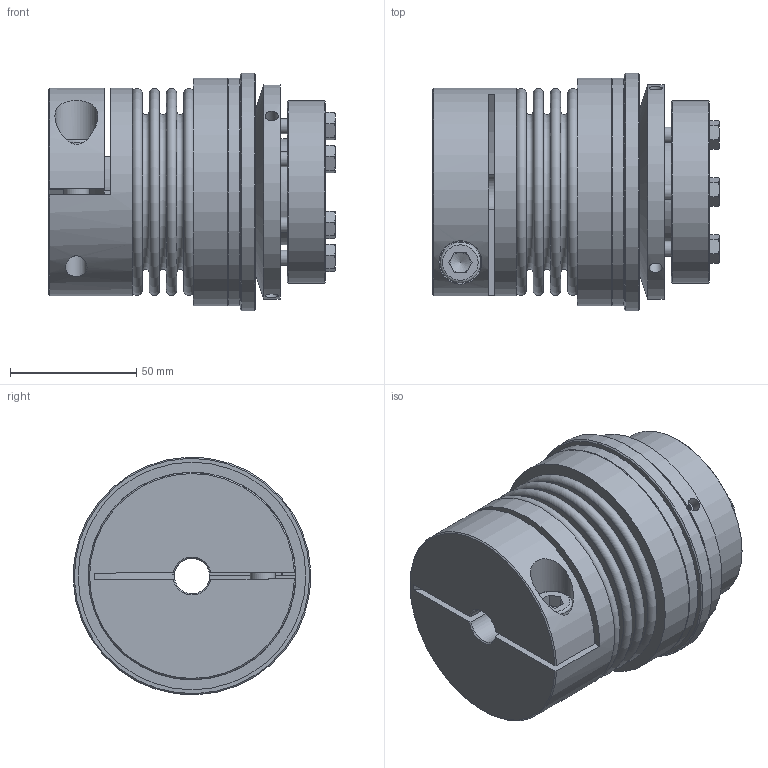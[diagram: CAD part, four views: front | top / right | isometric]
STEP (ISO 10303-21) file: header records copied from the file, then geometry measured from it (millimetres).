
FILE_DESCRIPTION( ( 'Unknown' ), '1' );
FILE_NAME( 'C:/Users/skarpstein/Desktop/Korrigierte 3D Modelle/KBK-B-KA/KBK-BKA-150-115.stp', 'Unknown', ( 'Unknown' ), ( 'Unknown' ), 'PSStep 16.0.42', 'Unknown', ' ' );
FILE_SCHEMA( ( 'AUTOMOTIVE_DESIGN { 1 0 10303 214 1 1 1 1 }' ) );
Length unit declared in the file: millimetre
Products named in the file (10): Assem1; Stellring 80; Druckring 80; Flansch BK150; KN80-150_Standard_6; Socket Head Cap Screw_DIN_DIN 912 M10 x 30 --- 30N_5; KBK L-A-80 Grundkörper_0; Druckring L-A-80_0; din_en_24017_m6x25; BK80-150_Standard_2
Assembly tree (14 placements, depth 2):
  Assem1
    Stellring 80
    Druckring 80
    Flansch BK150
    KN80-150_Standard_6
    Socket Head Cap Screw_DIN_DIN 912 M10 x 30 --- 30N_5
    KBK L-A-80 Grundkörper_0
    Druckring L-A-80_0
    din_en_24017_m6x25  x6
    BK80-150_Standard_2
Bounding box: 113.4 x 93.92 x 93.92 mm (x, y, z)
Volume: 419680 mm3; surface area: 155651.1 mm2
Topology: 14 solids, 14 shells, 322 faces, 680 edges, 438 vertices
Faces by surface type: plane 155, cone 79, cylinder 64, torus 24
Full cylindrical faces by diameter (mm): 3.242 x3, 4.917 x6, 5 x4, 5.2 x3, 6 x6, 6.6 x6, 8.5 x1, 8.8 x6, 10 x3, 14 x1, 16 x1, 17 x1, 19 x1, 37.5 x1, 40 x2, 42.29 x1, 48 x1, 52 x1, 62 x2, 70 x1, 70.7 x2, 71.9 x2, 72 x1, 82 x1, 85 x1, 87 x1, 90 x2, 94 x1
Entity records: 7527 total; most frequent: CARTESIAN_POINT 1431, DIRECTION 947, ORIENTED_EDGE 642, AXIS2_PLACEMENT_3D 434, EDGE_LOOP 380, EDGE_CURVE 321, FACE_OUTER_BOUND 283, VERTEX_POINT 268
